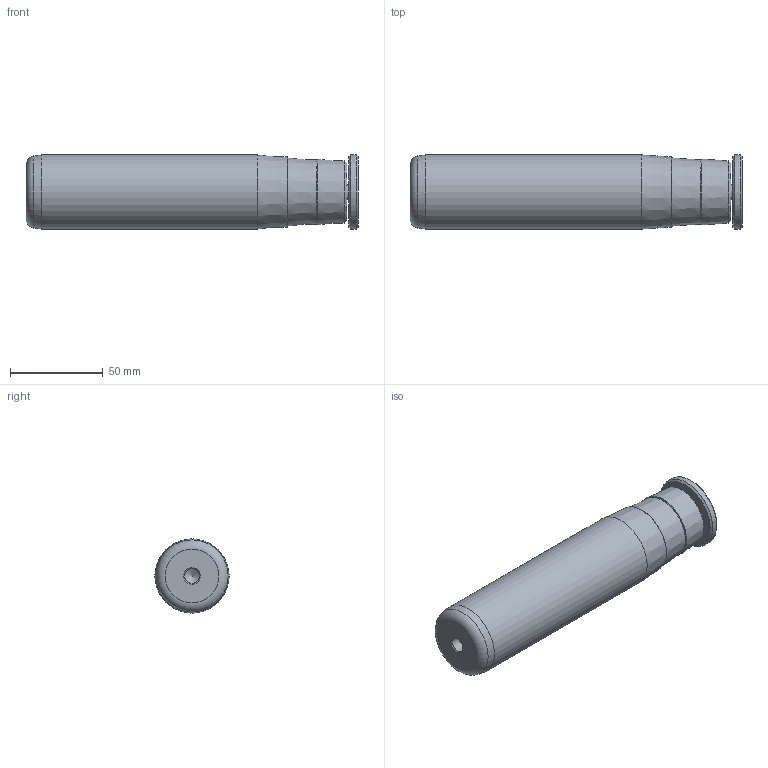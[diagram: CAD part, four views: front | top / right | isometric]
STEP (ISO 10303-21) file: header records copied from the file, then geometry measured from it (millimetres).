
FILE_DESCRIPTION(/* description */ ('Impex Ready, www.impex-ready.pl'),/* implementation_level */ '2;1');
FILE_NAME(/* name */ 'C:\Users\VIKKY\Nextcloud\SM\projekt 10 - części na stronę internetową\Pliki_3D_new\270 Słupy C5A\270_Słupy_C5A_STEP\C5A40140.ipt.step',/* time_stamp */ '2021-12-17T12:30:28+01:00',/* author */ ('SM'),/* organization */ (''),/* preprocessor_version */ 'ST-DEVELOPER v18.1',/* originating_system */ 'Autodesk Inventor 2021',/* authorisation */ '');
FILE_SCHEMA (('AUTOMOTIVE_DESIGN { 1 0 10303 214 3 1 1 }'));
Length unit declared in the file: millimetre
Products named in the file (1): C5A40140
Bounding box: 179 x 40 x 40 mm (x, y, z)
Volume: 210248.4 mm3; surface area: 27912.8 mm2
Topology: 3 solids, 3 shells, 61 faces, 134 edges, 81 vertices
Faces by surface type: plane 32, cone 16, cylinder 7, torus 6
Full cylindrical faces by diameter (mm): 8 x3, 10.5 x1, 15.879 x1, 40 x2
Entity records: 1769 total; most frequent: DIRECTION 309, CARTESIAN_POINT 298, ORIENTED_EDGE 262, EDGE_CURVE 131, AXIS2_PLACEMENT_3D 128, VERTEX_POINT 81, EDGE_LOOP 68, CIRCLE 66
